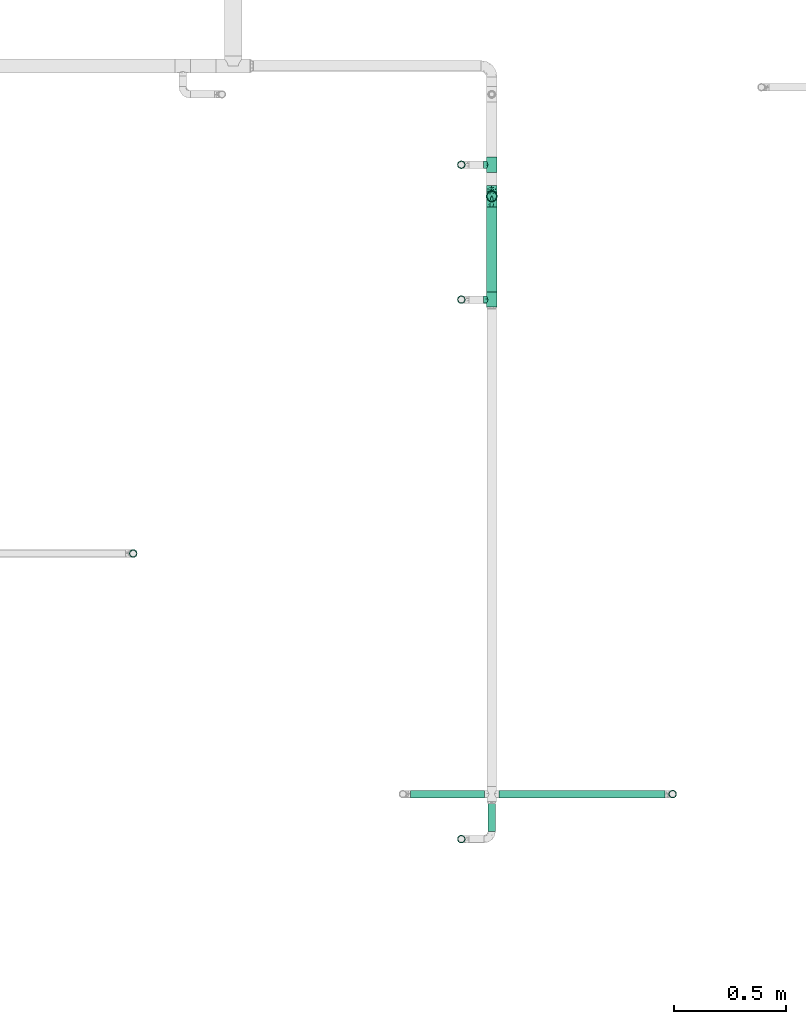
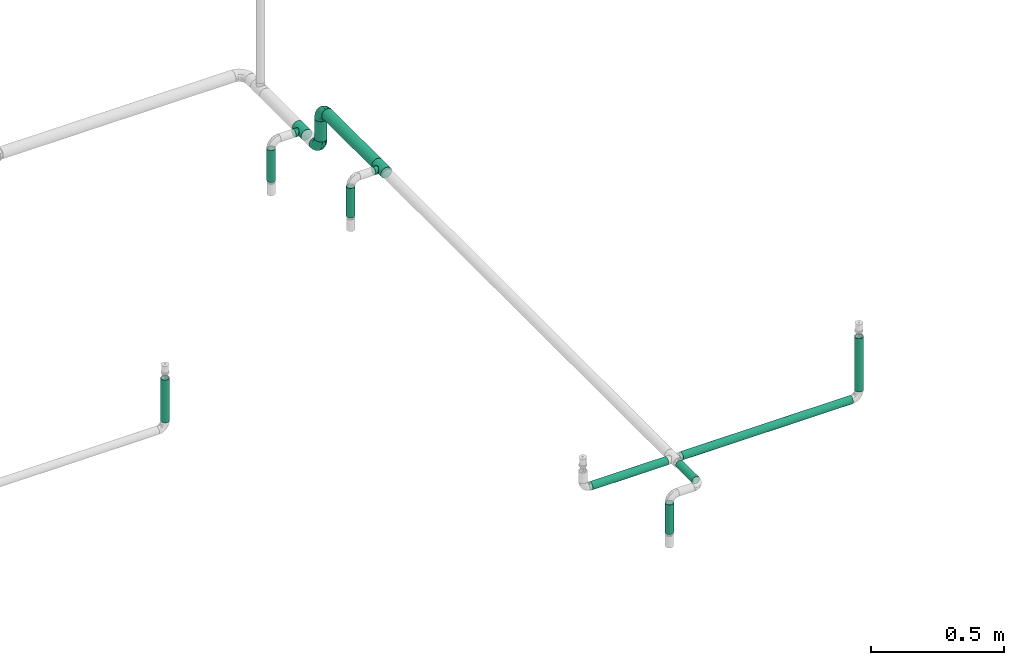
# One storey, part 8 of 157: 10 flow segments, 4 flow fittings.
"""IFC2X3 building model written with IfcOpenShell, lengths in millimetres."""

from ifc_helpers import new_model, entity, si_unit, converted_unit, derived_unit, direction, frame, origin_with_axes, origin_2d_with_axis, place, context, subcontext, project, spatial, hollow_circle, extrude, open_shell, surface_model, source, transform, mapped, type_object, element, save


model = new_model("IFC2X3")

# Units and contexts
model_context = context("Model", 3, precision=0.01, world=frame((0.0, 4.29681676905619e-09, 0.0)), true_north=direction((4.01073788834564e-13, 1.0)))
plan_context = context("Plan", 3, precision=0.01, world=frame((0.0, 4.29681676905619e-09, 0.0)), true_north=direction((4.01073788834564e-13, 1.0)))
body_context = subcontext(model_context, "Body", "Model", "MODEL_VIEW")
ifc_project = project(units=[converted_unit("PLANEANGLEUNIT", "DEGREE", entity("IfcPositiveLengthMeasure", 0.0174532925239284), si_unit("PLANEANGLEUNIT", "RADIAN"), dimensions=[0, 0, 0, 0, 0, 0, 0]), si_unit("AREAUNIT", "SQUARE_METRE"), si_unit("LENGTHUNIT", "METRE", prefix="MILLI"), si_unit("MASSUNIT", "GRAM", prefix="KILO"), si_unit("POWERUNIT", "WATT"), si_unit("PRESSUREUNIT", "PASCAL"), si_unit("FORCEUNIT", "NEWTON", prefix="KILO"), si_unit("ELECTRICCURRENTUNIT", "AMPERE"), si_unit("THERMODYNAMICTEMPERATUREUNIT", "DEGREE_CELSIUS"), si_unit("TIMEUNIT", "SECOND"), si_unit("VOLUMEUNIT", "CUBIC_METRE"), derived_unit("LINEARVELOCITYUNIT", [(si_unit("LENGTHUNIT", "METRE"), 1), (si_unit("TIMEUNIT", "SECOND"), -1)]), derived_unit("VOLUMETRICFLOWRATEUNIT", [(si_unit("VOLUMEUNIT", "CUBIC_METRE"), 1), (si_unit("TIMEUNIT", "SECOND"), -1)]), derived_unit("THERMALTRANSMITTANCEUNIT", [(si_unit("POWERUNIT", "WATT"), 1), (si_unit("THERMODYNAMICTEMPERATUREUNIT", "KELVIN"), -1), (si_unit("AREAUNIT", "SQUARE_METRE"), -1)])], contexts=[model_context, plan_context])

# Site, building, storey
site_placement = place(None, frame((0.0, -4.29681676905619e-09, 0.0), z_axis=(0.0, 0.0, 1.0), x_axis=(1.0, 0.0, 0.0)))
site = spatial("IfcSite", under=ifc_project, at=site_placement, CompositionType="ELEMENT")
building_placement = place(site_placement, frame((0.0, 4.29681676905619e-09, 0.0), z_axis=(0.0, 0.0, 1.0), x_axis=(1.0, 0.0, 0.0)))
building = spatial("IfcBuilding", under=site, at=building_placement, Name="mc-building", CompositionType="ELEMENT")
storey_placement = place(building_placement, frame((0.0, 0.0, 204000.0), z_axis=(0.0, 0.0, 1.0), x_axis=(1.0, 0.0, 0.0)))
storey = spatial("IfcBuildingStorey", under=building, at=storey_placement, Name="Nivå D", CompositionType="ELEMENT", Elevation=204000.0)

# Flow fittings
pipe_fitting_type_1 = type_object("IfcPipeFittingType", Name="magi_pipe_fe_elbow_short_001", PredefinedType="BEND")
shared_shape_1 = source(origin_with_axes(), body_context, "Body", "SurfaceModel", [
    surface_model("IfcShellBasedSurfaceModel", [(-48.4, 6.26342, -23.37541), (-48.4, 0.0, -24.2), (-48.4, 17.11198, -17.11198), (-48.4, 12.1, -20.95781), (-48.4, 23.37541, -6.26342), (-48.4, 20.95781, -12.1), (-48.4, -12.1, -20.95781), (-48.4, -17.11198, -17.11198), (-48.4, -20.95781, -12.1), (-48.4, -6.26342, -23.37541), (-48.4, -23.37541, -6.26342), (-48.4, -24.2, 0.0), (-48.4, -23.37541, 6.26342), (-48.4, 23.37541, 6.26342), (-48.4, 6.26342, 23.37541), (-48.4, 20.95781, 12.1), (-48.4, 17.11198, 17.11198), (-48.4, 12.1, 20.95781), (-48.4, -12.1, 20.95781), (-48.4, -20.95781, 12.1), (-48.4, -17.11198, 17.11198), (-48.4, -6.26342, 23.37541), (-48.4, 0.0, 24.2), (-48.4, 24.2, 0.0), (-17.11198, 48.4, -17.11198), (0.0, 48.4, -24.2), (-6.26342, 48.4, -23.37541), (-12.1, 48.4, -20.95781), (-20.95781, 48.4, -12.1), (-23.37541, 48.4, -6.26342), (12.1, 48.4, -20.95781), (20.95781, 48.4, -12.1), (17.11198, 48.4, -17.11198), (6.26342, 48.4, -23.37541), (23.37541, 48.4, -6.26342), (23.37541, 48.4, 6.26342), (24.2, 48.4, 0.0), (-23.37541, 48.4, 6.26342), (-6.26342, 48.4, 23.37541), (-17.11198, 48.4, 17.11198), (-20.95781, 48.4, 12.1), (-12.1, 48.4, 20.95781), (12.1, 48.4, 20.95781), (17.11198, 48.4, 17.11198), (20.95781, 48.4, 12.1), (0.0, 48.4, 24.2), (6.26342, 48.4, 23.37541), (-24.2, 48.4, 0.0), (-35.50368, -18.80076, 13.58523), (-31.77913, -13.9618, 18.03279), (-34.50859, -21.43683, 0.0), (-21.39243, -15.41147, 12.21413), (-32.16301, -21.12203, 7.54749), (21.12203, 32.16301, 7.54749), (17.07617, 18.95745, 6.20374), (18.67365, 20.61718, 0.0), (-23.65565, 38.62451, 10.51816), (-20.21592, 37.67665, 15.89859), (-35.56981, -9.15108, 21.77256), (-36.96985, -3.20584, 23.78612), (-33.88786, 3.70953, 24.15875), (-8.84062, -10.8048, 0.0), (-18.95745, -17.07617, 6.20374), (-20.61718, -18.67365, 0.0), (-18.69715, -5.87343, 20.10488), (-24.09336, -0.21717, 23.45593), (-2.08262, -4.09091, 10.90396), (-0.40561, 0.49936, 14.45569), (-8.22634, -5.79523, 14.90978), (-37.83027, 20.17367, 15.88169), (-8.41063, 23.79825, 24.15658), (-17.92529, 17.92529, 23.61199), (-14.40991, 10.5752, 24.07534), (-41.86919, 14.6551, 19.71874), (-9.03342, 41.7434, 22.66763), (-3.31671, 36.19978, 24.14056), (-38.63654, 23.65174, 10.51655), (-38.25939, 25.77657, 5.32075), (-30.0475, 30.0475, 9.04616), (-37.30448, 9.49113, 22.86036), (-6.31688, 16.20853, 23.76192), (-12.02449, 4.43954, 22.59792), (-2.47225, 13.07459, 22.23951), (-4.32281, 4.32281, 19.78555), (13.9618, 31.77913, 18.03279), (15.41147, 21.39243, 12.21413), (18.80076, 35.50367, 13.58523), (-25.72741, 16.42033, 22.38358), (-26.59277, 10.36599, 23.76692), (3.20584, 36.96985, 23.78612), (9.15107, 35.56981, 21.77256), (5.87343, 18.69715, 20.10488), (21.43683, 34.50859, 0.0), (-23.74657, 5.93004, 24.18967), (-22.40302, 25.55556, 19.88516), (-33.3245, 16.42738, 20.3789), (-25.47357, 39.04012, 5.19167), (-30.32947, 31.74105, 4.25904), (11.04589, 19.60124, 16.55181), (-27.44219, 36.3, 0.0), (-10.46605, 32.79159, 23.04712), (-13.80953, 25.05111, 23.26361), (-17.54489, 31.27863, 20.33941), (-19.27982, 23.42922, 22.01925), (-14.78447, 40.57947, 19.81913), (-19.60124, -11.04589, 16.55181), (-25.09785, 32.07921, 13.69695), (-25.5093, 27.02629, 17.14196), (-31.08127, 26.00324, 13.49448), (0.21717, 24.09336, 23.45593), (5.51075, 8.40547, 15.32867), (-11.48597, -10.80284, 11.35932), (1.43689, -3.14326, 6.54995), (7.34882, 4.31024, 8.4514), (7.50574, 2.51208, 3.62663), (12.46453, 10.09451, 5.71609), (12.1504, 12.55391, 10.15678), (-36.3, 27.44219, 0.0), (-6.52237, -9.62364, 7.02633), (2.93595, -2.93595, 0.0), (10.8048, 8.84062, 0.0), (-19.60124, -11.04589, -16.55181), (-31.77913, -13.9618, -18.03279), (-18.69715, -5.87343, -20.10488), (-21.39243, -15.41147, -12.21413), (-37.67665, 20.21591, -15.89859), (-40.57947, 14.78447, -19.81913), (-39.04012, 25.47357, -5.19167), (-32.16301, -21.12203, -7.54749), (-30.0475, 30.0475, -9.04616), (-38.62452, 23.65565, -10.51816), (-18.95745, -17.07617, -6.20374), (-23.42922, 19.27982, -22.01926), (-25.05111, 13.80953, -23.26361), (-31.27863, 17.54489, -20.33941), (-14.6551, 41.86919, -19.71874), (-20.17367, 37.83026, -15.88169), (9.15108, 35.56981, -21.77256), (5.87343, 18.69715, -20.10488), (0.21717, 24.09336, -23.45593), (-41.7434, 9.03342, -22.66763), (-35.50368, -18.80076, -13.58523), (-35.56981, -9.15108, -21.77256), (-16.42033, 25.72741, -22.38358), (-9.49113, 37.30447, -22.86036), (-10.36599, 26.59277, -23.76692), (-36.96985, -3.20584, -23.78612), (-23.79826, 8.41063, -24.15658), (-17.92529, 17.92529, -23.61199), (-10.5752, 14.40991, -24.07534), (-36.19978, 3.31671, -24.14056), (-25.77657, 38.25939, -5.32075), (-23.65174, 38.63654, -10.51655), (-32.79159, 10.46605, -23.04712), (-31.74105, 30.32946, -4.25904), (-5.93004, 23.74657, -24.18967), (-25.55556, 22.40302, -19.88516), (-16.42738, 33.3245, -20.3789), (3.20584, 36.96985, -23.78612), (-3.70953, 33.88785, -24.15875), (18.80076, 35.50367, -13.58523), (13.9618, 31.77913, -18.03279), (7.50574, 2.51208, -3.62663), (12.46453, 10.09451, -5.71609), (-16.20853, 6.31688, -23.76192), (-4.43954, 12.02449, -22.59792), (-13.07459, 2.47225, -22.23951), (1.43689, -3.14326, -6.54995), (-6.52237, -9.62364, -7.02632), (-2.08262, -4.09091, -10.90396), (15.41147, 21.39243, -12.21413), (21.12203, 32.16301, -7.54749), (17.07617, 18.95745, -6.20374), (-32.07921, 25.09785, -13.69695), (11.04589, 19.60124, -16.55181), (12.1504, 12.55391, -10.15678), (5.51075, 8.40547, -15.32867), (-27.02629, 25.5093, -17.14196), (-26.00324, 31.08127, -13.49448), (-24.09336, -0.21717, -23.45593), (-4.32281, 4.32281, -19.78555), (-8.22634, -5.79524, -14.90978), (-11.48597, -10.80284, -11.35931), (-0.40561, 0.49936, -14.45569), (7.34882, 4.31024, -8.4514)], [open_shell([[[0, 1, 2]], [[3, 0, 2]], [[4, 5, 2]], [[6, 2, 1]], [[4, 2, 6]], [[7, 8, 6]], [[1, 9, 6]], [[8, 10, 6]], [[6, 10, 4]], [[11, 12, 10]], [[13, 4, 10]], [[14, 13, 10]], [[15, 13, 16]], [[13, 14, 17]], [[16, 13, 17]], [[10, 18, 14]], [[19, 20, 12]], [[20, 10, 12]], [[21, 22, 18]], [[20, 18, 10]], [[18, 22, 14]], [[23, 4, 13]], [[24, 25, 26]], [[24, 26, 27]], [[24, 28, 29]], [[25, 24, 30]], [[30, 24, 29]], [[30, 31, 32]], [[30, 33, 25]], [[30, 34, 31]], [[29, 34, 30]], [[34, 35, 36]], [[34, 29, 37]], [[34, 37, 38]], [[39, 37, 40]], [[41, 38, 37]], [[41, 37, 39]], [[38, 42, 34]], [[35, 43, 44]], [[35, 34, 43]], [[42, 45, 46]], [[34, 42, 43]], [[38, 45, 42]], [[37, 29, 47]], [[20, 48, 49]], [[12, 11, 50]], [[51, 48, 52]], [[53, 54, 55]], [[48, 20, 19]], [[12, 52, 19]], [[40, 56, 57]], [[49, 18, 20]], [[49, 58, 18]], [[22, 59, 60]], [[61, 62, 63]], [[58, 64, 65]], [[66, 67, 68]], [[15, 16, 69]], [[70, 71, 72]], [[17, 73, 16]], [[21, 59, 22]], [[38, 74, 75]], [[22, 60, 14]], [[15, 69, 76]], [[16, 73, 69]], [[23, 13, 77]], [[13, 15, 76]], [[77, 76, 78]], [[14, 79, 17]], [[80, 81, 82]], [[68, 83, 64]], [[84, 43, 42]], [[85, 86, 84]], [[87, 79, 88]], [[18, 58, 21]], [[45, 89, 46]], [[53, 35, 44]], [[45, 38, 75]], [[84, 90, 91]], [[44, 86, 53]], [[92, 35, 53]], [[86, 44, 43]], [[90, 42, 46]], [[53, 55, 92]], [[88, 93, 72]], [[54, 53, 85]], [[87, 94, 95]], [[78, 96, 97]], [[98, 84, 91]], [[99, 96, 47]], [[79, 14, 60]], [[96, 78, 56]], [[62, 52, 63]], [[57, 39, 40]], [[100, 70, 75]], [[101, 102, 103]], [[12, 50, 52]], [[104, 41, 39]], [[74, 38, 41]], [[57, 102, 104]], [[105, 64, 49]], [[90, 84, 42]], [[40, 37, 56]], [[56, 106, 57]], [[102, 57, 107]], [[95, 107, 69]], [[76, 108, 78]], [[100, 101, 70]], [[89, 75, 109]], [[64, 58, 49]], [[63, 52, 50]], [[59, 58, 65]], [[105, 49, 51]], [[64, 83, 81]], [[89, 90, 46]], [[36, 35, 92]], [[109, 82, 91]], [[109, 91, 90]], [[91, 83, 110]], [[111, 68, 105]], [[66, 68, 111]], [[62, 51, 52]], [[66, 112, 113]], [[114, 115, 113]], [[98, 85, 84]], [[52, 48, 19]], [[49, 48, 51]], [[84, 86, 43]], [[53, 86, 85]], [[88, 79, 60]], [[73, 79, 95]], [[96, 56, 37]], [[78, 108, 106]], [[87, 103, 94]], [[100, 74, 104]], [[108, 69, 107]], [[78, 97, 77]], [[88, 72, 71]], [[109, 75, 70]], [[81, 72, 65]], [[70, 72, 80]], [[75, 89, 45]], [[90, 89, 109]], [[58, 59, 21]], [[60, 59, 65]], [[67, 83, 68]], [[110, 113, 116]], [[88, 60, 93]], [[87, 88, 71]], [[103, 87, 71]], [[79, 87, 95]], [[101, 103, 71]], [[94, 103, 102]], [[47, 96, 37]], [[96, 99, 97]], [[99, 117, 97]], [[97, 117, 77]], [[23, 77, 117]], [[13, 76, 77]], [[60, 65, 93]], [[65, 72, 93]], [[70, 101, 71]], [[102, 101, 100]], [[69, 108, 76]], [[106, 108, 107]], [[57, 106, 107]], [[78, 106, 56]], [[57, 104, 39]], [[100, 104, 102]], [[102, 107, 94]], [[95, 94, 107]], [[64, 81, 65]], [[82, 81, 83]], [[91, 82, 83]], [[80, 82, 109]], [[70, 80, 109]], [[81, 80, 72]], [[79, 73, 17]], [[69, 73, 95]], [[104, 74, 41]], [[75, 74, 100]], [[62, 61, 118]], [[111, 62, 118]], [[113, 115, 116]], [[119, 118, 61]], [[111, 105, 51]], [[113, 112, 114]], [[120, 55, 54]], [[68, 64, 105]], [[91, 110, 98]], [[116, 98, 110]], [[62, 111, 51]], [[66, 111, 118]], [[112, 66, 118]], [[67, 113, 110]], [[118, 119, 112]], [[114, 112, 119]], [[119, 120, 114]], [[115, 120, 54]], [[120, 115, 114]], [[116, 54, 85]], [[54, 116, 115]], [[116, 85, 98]], [[113, 67, 66]], [[83, 67, 110]], [[121, 122, 123]], [[122, 121, 124]], [[5, 125, 2]], [[2, 126, 3]], [[117, 127, 23]], [[50, 10, 128]], [[127, 129, 130]], [[128, 131, 63]], [[132, 133, 134]], [[24, 135, 136]], [[137, 138, 139]], [[3, 140, 0]], [[128, 8, 141]], [[142, 6, 9]], [[128, 63, 50]], [[5, 4, 130]], [[8, 7, 141]], [[143, 144, 145]], [[146, 9, 1]], [[147, 148, 149]], [[8, 128, 10]], [[124, 141, 122]], [[150, 1, 0]], [[151, 152, 129]], [[125, 134, 126]], [[153, 147, 150]], [[127, 154, 129]], [[145, 155, 149]], [[47, 29, 151]], [[143, 156, 157]], [[152, 29, 28]], [[25, 158, 159]], [[122, 7, 6]], [[24, 27, 135]], [[144, 27, 26]], [[32, 160, 161]], [[25, 33, 158]], [[120, 162, 163]], [[130, 125, 5]], [[24, 136, 28]], [[0, 140, 150]], [[30, 161, 137]], [[142, 122, 6]], [[25, 159, 26]], [[164, 165, 166]], [[167, 168, 169]], [[31, 160, 32]], [[161, 30, 32]], [[170, 160, 171]], [[131, 128, 124]], [[36, 92, 34]], [[34, 92, 171]], [[172, 171, 55]], [[34, 171, 31]], [[144, 26, 159]], [[130, 173, 125]], [[174, 175, 176]], [[136, 152, 28]], [[30, 137, 33]], [[122, 142, 123]], [[134, 125, 177]], [[157, 177, 136]], [[152, 178, 129]], [[153, 133, 147]], [[146, 150, 179]], [[146, 142, 9]], [[11, 10, 50]], [[179, 166, 123]], [[179, 123, 142]], [[123, 180, 181]], [[138, 137, 161]], [[55, 171, 92]], [[158, 137, 139]], [[174, 161, 170]], [[138, 180, 165]], [[180, 138, 176]], [[124, 121, 182]], [[176, 183, 180]], [[61, 131, 168]], [[169, 168, 182]], [[172, 170, 171]], [[122, 141, 7]], [[128, 141, 124]], [[171, 160, 31]], [[161, 160, 170]], [[145, 144, 159]], [[135, 144, 157]], [[127, 130, 4]], [[129, 178, 173]], [[143, 132, 156]], [[153, 140, 126]], [[178, 136, 177]], [[129, 154, 151]], [[145, 149, 148]], [[179, 150, 147]], [[165, 149, 139]], [[147, 149, 164]], [[150, 146, 1]], [[142, 146, 179]], [[137, 158, 33]], [[159, 158, 139]], [[174, 138, 161]], [[184, 169, 183]], [[145, 159, 155]], [[143, 145, 148]], [[132, 143, 148]], [[144, 143, 157]], [[133, 132, 148]], [[156, 132, 134]], [[23, 127, 4]], [[127, 117, 154]], [[117, 99, 154]], [[154, 99, 151]], [[47, 151, 99]], [[29, 152, 151]], [[159, 139, 155]], [[139, 149, 155]], [[147, 133, 148]], [[134, 133, 153]], [[136, 178, 152]], [[173, 178, 177]], [[125, 173, 177]], [[129, 173, 130]], [[125, 126, 2]], [[153, 126, 134]], [[134, 177, 156]], [[157, 156, 177]], [[138, 165, 139]], [[166, 165, 180]], [[123, 166, 180]], [[164, 166, 179]], [[147, 164, 179]], [[165, 164, 149]], [[144, 135, 27]], [[136, 135, 157]], [[126, 140, 3]], [[150, 140, 153]], [[182, 131, 124]], [[168, 119, 61]], [[119, 167, 162]], [[63, 131, 61]], [[172, 163, 175]], [[172, 55, 120]], [[123, 181, 121]], [[182, 121, 181]], [[175, 174, 170]], [[176, 138, 174]], [[169, 182, 181]], [[131, 182, 168]], [[183, 169, 181]], [[167, 169, 184]], [[162, 167, 184]], [[119, 168, 167]], [[163, 162, 184]], [[120, 119, 162]], [[175, 163, 184]], [[120, 163, 172]], [[176, 175, 184]], [[172, 175, 170]], [[180, 183, 181]], [[184, 183, 176]]])]),
])
for number, where, z_axis, x_axis, name in (
    (1, (521635.35, 413459.35389, 2690.0), (-1.0, 0.0, 0.0), (0.0, -1.0, 0.0), "magi_pipe_fe_elbow_short_001"),
    (2, (521635.35, 413459.35389, 2880.0), (1.0, 0.0, 0.0), (0.0, 0.0, 1.0), "magi_pipe_fe_elbow_short_001"),
):
    element("IfcFlowFitting", number, at=place(storey_placement, frame(where, z_axis=z_axis, x_axis=x_axis)), inside=storey, type_object=pipe_fitting_type_1, Name=name, context=body_context, shape_type="MappedRepresentation", body=[
        mapped(shared_shape_1, transform((0.0, 0.0, 0.0), scale=1.0)),
    ])
pipe_fitting_type_2 = type_object("IfcPipeFittingType", Name="magi_pipe_fe_tee_centric_90_NOR", PredefinedType="JUNCTION")
shared_shape_2 = source(origin_with_axes(), body_context, "Body", "SurfaceModel", [
    surface_model("IfcShellBasedSurfaceModel", [(-33.8, 0.0, -24.2), (-33.8, -6.26342, -23.37541), (-33.8, 6.26342, -23.37541), (-33.8, 12.1, -20.95781), (-33.8, 17.11198, -17.11198), (-33.8, 20.95781, -12.1), (-33.8, -23.37541, -6.26342), (-33.8, 23.37541, -6.26342), (-33.8, -17.11198, -17.11198), (-33.8, -20.95781, -12.1), (-33.8, -12.1, -20.95781), (-33.8, -24.2, 0.0), (-33.8, -23.37541, 6.26342), (-33.8, 20.95781, 12.1), (-33.8, 23.37541, 6.26342), (-33.8, 24.2, 0.0), (-33.8, 12.1, 20.95781), (-33.8, 17.11198, 17.11198), (-33.8, -17.11198, 17.11198), (-33.8, 6.26342, 23.37541), (-33.8, -20.95781, 12.1), (-33.8, -12.1, 20.95781), (-33.8, -6.26342, 23.37541), (-33.8, 0.0, 24.2), (33.8, 6.26342, -23.37541), (33.8, -6.26342, -23.37541), (33.8, 0.0, -24.2), (33.8, 17.11198, -17.11198), (33.8, 12.1, -20.95781), (33.8, -23.37541, -6.26342), (33.8, 20.95781, -12.1), (33.8, 23.37541, -6.26342), (33.8, -17.11198, -17.11198), (33.8, -12.1, -20.95781), (33.8, -20.95781, -12.1), (33.8, -24.2, 0.0), (33.8, 24.2, 0.0), (33.8, 23.37541, 6.26342), (33.8, 20.95781, 12.1), (33.8, -23.37541, 6.26342), (33.8, -17.11198, 17.11198), (33.8, 12.1, 20.95781), (33.8, 17.11198, 17.11198), (33.8, 6.26342, 23.37541), (33.8, -20.95781, 12.1), (33.8, -12.1, 20.95781), (33.8, 0.0, 24.2), (33.8, -6.26342, 23.37541), (15.81824, -23.45734, 5.94922), (16.9, -24.2, 0.0), (12.87025, -21.57947, 10.95293), (33.8, -19.0349, 14.60599), (8.52813, -19.30697, 14.59044), (3.03527, -17.5853, 16.6252), (-3.04044, -17.58619, 16.62425), (-8.52961, -19.30762, 14.58958), (-33.8, -19.0349, 14.60599), (-16.9, -24.2, 0.0), (-15.81885, -23.45775, 5.9476), (-12.87368, -21.58151, 10.9489), (3.03527, -17.5853, -16.6252), (33.8, -19.0349, -14.60599), (8.52813, -19.30697, -14.59044), (-8.52961, -19.30762, -14.58958), (-33.8, -19.0349, -14.60599), (12.87025, -21.57947, -10.95293), (-3.04044, -17.58619, -16.62425), (15.81824, -23.45734, -5.94922), (-12.87368, -21.58151, -10.9489), (-15.81885, -23.45775, -5.9476), (4.37404, -36.3, -16.32415), (-16.9, -36.3, 0.0), (0.0, -36.3, -16.9), (14.63583, -36.3, -8.45), (8.45, -36.3, -14.63583), (16.32415, -36.3, -4.37404), (11.9501, -36.3, -11.9501), (-11.9501, -36.3, -11.9501), (-8.45, -36.3, -14.63583), (-4.37404, -36.3, -16.32415), (-14.63583, -36.3, -8.45), (-16.32415, -36.3, -4.37404), (16.9, -36.3, 0.0), (8.45, -36.3, 14.63583), (16.32415, -36.3, 4.37404), (14.63583, -36.3, 8.45), (-8.45, -36.3, 14.63583), (11.9501, -36.3, 11.9501), (4.37404, -36.3, 16.32415), (-16.32415, -36.3, 4.37404), (-11.9501, -36.3, 11.9501), (-14.63583, -36.3, 8.45), (0.0, -36.3, 16.9), (-4.37404, -36.3, 16.32415), (-16.35943, -23.82888, 2.9738), (16.35912, -23.82867, 2.97461), (-0.00259, -17.58575, 16.62472), (16.35912, -23.82867, -2.97461), (-0.00259, -17.58575, -16.62472), (-16.35943, -23.82888, -2.9738)], [open_shell([[[0, 1, 2]], [[3, 2, 4]], [[5, 2, 6]], [[4, 2, 5]], [[7, 5, 6]], [[8, 9, 10]], [[1, 10, 9]], [[1, 9, 2]], [[9, 6, 2]], [[6, 11, 7]], [[11, 12, 7]], [[13, 14, 15]], [[13, 15, 12]], [[16, 17, 18]], [[12, 17, 13]], [[19, 16, 18]], [[20, 18, 12]], [[18, 17, 12]], [[21, 22, 18]], [[23, 18, 22]], [[18, 23, 19]], [[7, 12, 15]], [[24, 25, 26]], [[27, 24, 28]], [[29, 24, 30]], [[30, 24, 27]], [[29, 30, 31]], [[25, 32, 33]], [[32, 25, 34]], [[24, 34, 25]], [[24, 29, 34]], [[31, 35, 29]], [[31, 36, 35]], [[36, 37, 38]], [[39, 36, 38]], [[40, 38, 41]], [[41, 38, 42]], [[40, 41, 43]], [[39, 40, 44]], [[39, 38, 40]], [[45, 46, 47]], [[46, 45, 40]], [[43, 46, 40]], [[36, 39, 35]], [[35, 39, 48]], [[48, 49, 35]], [[39, 50, 48]], [[51, 40, 52]], [[52, 50, 44]], [[53, 52, 40]], [[54, 53, 21]], [[44, 50, 39]], [[55, 18, 56]], [[57, 58, 11]], [[12, 11, 58]], [[58, 59, 12]], [[55, 54, 18]], [[55, 20, 59]], [[20, 55, 56]], [[59, 20, 12]], [[18, 54, 21]], [[52, 44, 51]], [[53, 40, 45]], [[23, 47, 46]], [[22, 45, 47]], [[19, 46, 43]], [[38, 37, 14]], [[17, 41, 42]], [[13, 42, 38]], [[43, 41, 16]], [[15, 37, 36]], [[21, 45, 22]], [[22, 47, 23]], [[19, 23, 46]], [[43, 16, 19]], [[16, 41, 17]], [[13, 17, 42]], [[14, 13, 38]], [[37, 15, 14]], [[45, 21, 53]], [[5, 31, 30]], [[7, 36, 31]], [[4, 30, 27]], [[26, 25, 1]], [[2, 28, 24]], [[0, 24, 26]], [[27, 28, 3]], [[10, 25, 33]], [[15, 36, 7]], [[7, 31, 5]], [[4, 5, 30]], [[27, 3, 4]], [[3, 28, 2]], [[0, 2, 24]], [[1, 0, 26]], [[25, 10, 1]], [[33, 60, 10]], [[61, 34, 62]], [[63, 9, 64]], [[62, 60, 32]], [[34, 65, 62]], [[66, 10, 60]], [[29, 35, 67]], [[67, 65, 29]], [[49, 67, 35]], [[29, 65, 34]], [[66, 63, 8]], [[62, 32, 61]], [[64, 8, 63]], [[63, 68, 9]], [[8, 10, 66]], [[68, 69, 6]], [[69, 11, 6]], [[11, 69, 57]], [[68, 6, 9]], [[60, 33, 32]], [[70, 71, 72]], [[73, 70, 74]], [[73, 75, 70]], [[73, 74, 76]], [[71, 70, 75]], [[72, 77, 78]], [[78, 79, 72]], [[80, 71, 81]], [[77, 72, 80]], [[71, 80, 72]], [[75, 82, 71]], [[83, 82, 84]], [[83, 84, 85]], [[86, 71, 83]], [[83, 85, 87]], [[86, 83, 88]], [[89, 90, 91]], [[90, 89, 86]], [[86, 92, 93]], [[89, 71, 86]], [[88, 92, 86]], [[83, 71, 82]], [[89, 94, 71]], [[59, 91, 90]], [[89, 91, 58]], [[90, 86, 55]], [[89, 58, 94]], [[94, 57, 71]], [[58, 91, 59]], [[95, 48, 84]], [[55, 93, 54]], [[55, 59, 90]], [[92, 53, 96]], [[55, 86, 93]], [[53, 92, 88]], [[83, 52, 88]], [[87, 85, 50]], [[87, 52, 83]], [[48, 85, 84]], [[87, 50, 52]], [[52, 53, 88]], [[82, 95, 84]], [[48, 50, 85]], [[95, 82, 49]], [[92, 54, 93]], [[96, 54, 92]], [[75, 97, 82]], [[65, 73, 76]], [[75, 73, 67]], [[76, 74, 62]], [[97, 49, 82]], [[67, 73, 65]], [[62, 70, 60]], [[62, 65, 76]], [[72, 66, 98]], [[62, 74, 70]], [[99, 71, 57]], [[99, 69, 81]], [[75, 67, 97]], [[79, 66, 72]], [[69, 80, 81]], [[77, 80, 68]], [[72, 60, 70]], [[79, 63, 66]], [[63, 79, 78]], [[78, 77, 63]], [[63, 77, 68]], [[68, 80, 69]], [[71, 99, 81]], [[98, 60, 72]]])]),
])
for number, where, z_axis, x_axis, name in (
    (3, (521635.35, 413600.00018, 2690.0), (0.0, 0.0, -1.0), (0.0, 1.0, 0.0), "magi_pipe_fe_tee_centric_90_NOR"),
    (4, (521635.35, 413000.0, 2880.0), (0.0, 0.0, -1.0), (0.0, 1.0, 0.0), "magi_pipe_fe_tee_centric_90_NOR"),
):
    element("IfcFlowFitting", number, at=place(storey_placement, frame(where, z_axis=z_axis, x_axis=x_axis)), inside=storey, type_object=pipe_fitting_type_2, Name=name, context=body_context, shape_type="MappedRepresentation", body=[
        mapped(shared_shape_2, transform((0.0, 0.0, 0.0), scale=1.0)),
    ])

# Flow segments
pipe_segment_type = type_object("IfcPipeSegmentType", Name="Stålrør normaltykke", PredefinedType="RIGIDSEGMENT")
shared_shape_3 = source(origin_with_axes(), body_context, "Body", "SweptSolid", [
    extrude(hollow_circle(Radius=16.9, WallThickness=2.0, at=origin_2d_with_axis()), frame((0.0, 0.0, 0.0), z_axis=(1.0, 0.0, 0.0), x_axis=(0.0, 1.0, 0.0)), (0.0, 0.0, 1.0), 146.8),
])
flow_segment_1_placement = place(storey_placement, frame((521500.0, 413600.0, 2509.35200000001), z_axis=(0.0, -1.0, 0.0), x_axis=(0.0, 0.0, 1.0)))
element("IfcFlowSegment", 5, at=flow_segment_1_placement, inside=storey, type_object=pipe_segment_type, Name="Stålrør normaltykke", context=body_context, shape_type="MappedRepresentation", body=[
    mapped(shared_shape_3, transform((0.0, 0.0, 0.0), scale=1.0)),
])
shared_shape_4 = source(origin_with_axes(), body_context, "Body", "SweptSolid", [
    extrude(hollow_circle(Radius=16.9, WallThickness=2.0, at=origin_2d_with_axis()), frame((0.0, 0.0, 0.0), z_axis=(1.0, 0.0, 0.0), x_axis=(0.0, 1.0, 0.0)), (0.0, 0.0, 1.0), 246.3),
])
flow_segment_2_placement = place(storey_placement, frame((522440.35, 410800.0, 3160.14799999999), z_axis=(0.0, -1.0, 0.0), x_axis=(0.0, 0.0, -1.0)))
element("IfcFlowSegment", 6, at=flow_segment_2_placement, inside=storey, type_object=pipe_segment_type, Name="Stålrør normaltykke", context=body_context, shape_type="MappedRepresentation", body=[
    mapped(shared_shape_4, transform((0.0, 0.0, 0.0), scale=1.0)),
])
shared_shape_5 = source(origin_with_axes(), body_context, "Body", "SweptSolid", [
    extrude(hollow_circle(Radius=16.9, WallThickness=2.0, at=origin_2d_with_axis()), frame((0.0, 0.0, 0.0), z_axis=(1.0, 0.0, 0.0), x_axis=(0.0, 1.0, 0.0)), (0.0, 0.0, 1.0), 136.8),
])
for number, where, z_axis, x_axis in (
    (7, (521500.0, 410600.0, 2709.35200000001), (-1.0, 0.0, 0.0), (0.0, 0.0, 1.0)),
    (8, (521500.0, 413000.0, 2709.35200000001), (0.0, -1.0, 0.0), (0.0, 0.0, 1.0)),
):
    element("IfcFlowSegment", number, at=place(storey_placement, frame(where, z_axis=z_axis, x_axis=x_axis)), inside=storey, type_object=pipe_segment_type, Name="Stålrør normaltykke", context=body_context, shape_type="MappedRepresentation", body=[
        mapped(shared_shape_5, transform((0.0, 0.0, 0.0), scale=1.0)),
    ])
shared_shape_6 = source(origin_with_axes(), body_context, "Body", "SweptSolid", [
    extrude(hollow_circle(Radius=16.9, WallThickness=2.0, at=origin_2d_with_axis()), frame((0.0, 0.0, 0.0), z_axis=(1.0, 0.0, 0.0), x_axis=(0.0, 1.0, 0.0)), (0.0, 0.0, 1.0), 330.0),
])
flow_segment_3_placement = place(storey_placement, frame((521273.575, 410800.0, 2880.0), z_axis=(0.0, 0.0, 1.0), x_axis=(1.0, 0.0, 0.0)))
element("IfcFlowSegment", 9, at=flow_segment_3_placement, inside=storey, type_object=pipe_segment_type, Name="Stålrør normaltykke", context=body_context, shape_type="MappedRepresentation", body=[
    mapped(shared_shape_6, transform((0.0, 0.0, 0.0), scale=1.0)),
])
shared_shape_7 = source(origin_with_axes(), body_context, "Body", "SweptSolid", [
    extrude(hollow_circle(Radius=16.9, WallThickness=2.0, at=origin_2d_with_axis()), frame((0.0, 0.0, 0.0), z_axis=(1.0, 0.0, 0.0), x_axis=(0.0, 1.0, 0.0)), (0.0, 0.0, 1.0), 123.8),
])
flow_segment_4_placement = place(storey_placement, frame((521635.35, 410757.60001, 2880.0), z_axis=(0.0, 0.0, 1.0), x_axis=(0.0, -1.0, 0.0)))
element("IfcFlowSegment", 10, at=flow_segment_4_placement, inside=storey, type_object=pipe_segment_type, Name="Stålrør normaltykke", context=body_context, shape_type="MappedRepresentation", body=[
    mapped(shared_shape_7, transform((0.0, 0.0, 0.0), scale=1.0)),
])
shared_shape_8 = source(origin_with_axes(), body_context, "Body", "SweptSolid", [
    extrude(hollow_circle(Radius=24.1, WallThickness=2.0, at=origin_2d_with_axis()), frame((0.0, 0.0, 0.0), z_axis=(1.0, 0.0, 0.0), x_axis=(0.0, 1.0, 0.0)), (0.0, 0.0, 1.0), 93.2),
])
flow_segment_5_placement = place(storey_placement, frame((521635.35, 413459.35389, 2738.39999999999), z_axis=(0.0, 1.0, 0.0), x_axis=(0.0, 0.0, 1.0)))
element("IfcFlowSegment", 11, at=flow_segment_5_placement, inside=storey, type_object=pipe_segment_type, Name="Stålrør normaltykke", context=body_context, shape_type="MappedRepresentation", body=[
    mapped(shared_shape_8, transform((0.0, 0.0, 0.0), scale=1.0)),
])
shared_shape_9 = source(origin_with_axes(), body_context, "Body", "SweptSolid", [
    extrude(hollow_circle(Radius=16.9, WallThickness=2.0, at=origin_2d_with_axis()), frame((0.0, 0.0, 0.0), z_axis=(1.0, 0.0, 0.0), x_axis=(0.0, 1.0, 0.0)), (0.0, 0.0, 1.0), 196.3),
])
flow_segment_6_placement = place(storey_placement, frame((520040.35, 411870.36705, 2963.79999999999), z_axis=(0.0, -1.0, 0.0), x_axis=(0.0, 0.0, 1.0)))
element("IfcFlowSegment", 12, at=flow_segment_6_placement, inside=storey, type_object=pipe_segment_type, Name="Stålrør normaltykke", context=body_context, shape_type="MappedRepresentation", body=[
    mapped(shared_shape_9, transform((0.0, 0.0, 0.0), scale=1.0)),
])
shared_shape_10 = source(origin_with_axes(), body_context, "Body", "SweptSolid", [
    extrude(hollow_circle(Radius=24.1, WallThickness=2.0, at=origin_2d_with_axis()), frame((0.0, 0.0, 0.0), z_axis=(1.0, 0.0, 0.0), x_axis=(0.0, 1.0, 0.0)), (0.0, 0.0, 1.0), 377.2),
])
flow_segment_7_placement = place(storey_placement, frame((521635.35, 413410.95389, 2880.0), z_axis=(0.0, 0.0, 1.0), x_axis=(0.0, -1.0, 0.0)))
element("IfcFlowSegment", 13, at=flow_segment_7_placement, inside=storey, type_object=pipe_segment_type, Name="Stålrør normaltykke", context=body_context, shape_type="MappedRepresentation", body=[
    mapped(shared_shape_10, transform((0.0, 0.0, 0.0), scale=1.0)),
])
shared_shape_11 = source(origin_with_axes(), body_context, "Body", "SweptSolid", [
    extrude(hollow_circle(Radius=16.9, WallThickness=2.0, at=origin_2d_with_axis()), frame((0.0, 0.0, 0.0), z_axis=(1.0, 0.0, 0.0), x_axis=(0.0, 1.0, 0.0)), (0.0, 0.0, 1.0), 739.4),
])
flow_segment_8_placement = place(storey_placement, frame((521667.15, 410800.0, 2880.0), z_axis=(0.0, 0.0, 1.0), x_axis=(1.0, 0.0, 0.0)))
element("IfcFlowSegment", 14, at=flow_segment_8_placement, inside=storey, type_object=pipe_segment_type, Name="Stålrør normaltykke", context=body_context, shape_type="MappedRepresentation", body=[
    mapped(shared_shape_11, transform((0.0, 0.0, 0.0), scale=1.0)),
])

save(model, "model.ifc")
